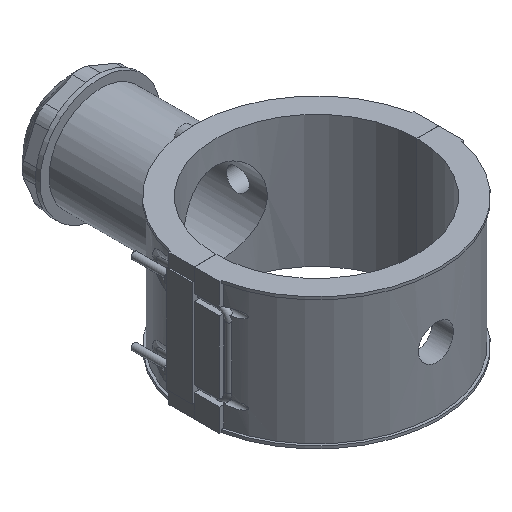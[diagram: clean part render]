
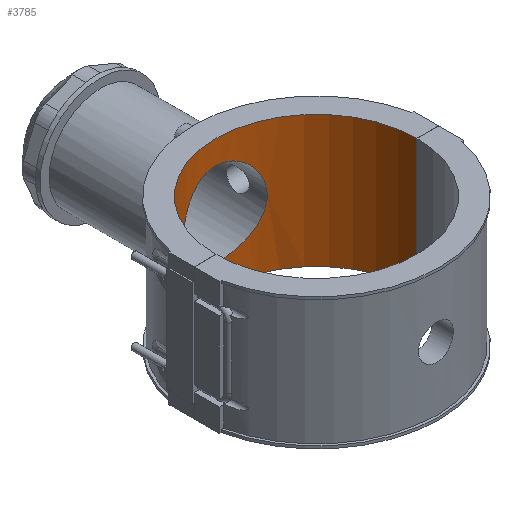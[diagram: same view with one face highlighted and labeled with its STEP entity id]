
A CAD part, isometric view. The second image highlights one B-rep face of the part: STEP entity #3785.
In plain terms, the highlighted cylindrical face has radius 90 mm (diameter 180 mm), a partial arc.
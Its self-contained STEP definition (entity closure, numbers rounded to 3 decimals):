
#283=LINE('',#7626,#592);
#346=LINE('',#8068,#655);
#592=VECTOR('',#4850,118.);
#655=VECTOR('',#5065,118.);
#909=CIRCLE('',#4111,90.);
#910=CIRCLE('',#4113,90.);
#949=FACE_BOUND('',#1405,.T.);
#1157=FACE_OUTER_BOUND('',#1404,.T.);
#1404=EDGE_LOOP('',(#3513,#3514,#3515,#3516));
#1405=EDGE_LOOP('',(#3517));
#1407=B_SPLINE_CURVE_WITH_KNOTS('',3,(#5084,#5085,#5086,#5087,#5088,#5089,
#5090,#5091,#5092,#5093,#5094,#5095,#5096,#5097,#5098,#5099,#5100,#5101,
#5102,#5103,#5104,#5105,#5106,#5107,#5108,#5109,#5110,#5111,#5112,#5113,
#5114,#5115,#5116,#5117,#5118,#5119,#5120,#5121,#5122,#5123,#5124,#5125,
#5126,#5127,#5128,#5129,#5130,#5131,#5132,#5133,#5134,#5135,#5136,#5137,
#5138,#5139,#5140,#5141,#5142,#5143,#5144,#5145,#5146,#5147,#5148,#5149),
 .UNSPECIFIED.,.T.,.F.,(4,2,2,2,2,2,2,2,2,2,2,2,2,2,2,2,2,2,2,2,2,2,2,2,
2,2,2,2,2,2,2,2,4),(0.,0.722,1.444,2.167,
2.889,3.61,4.332,5.053,5.774,
6.496,7.217,7.938,8.66,9.382,
10.104,10.826,11.548,12.271,12.993,
13.715,14.437,15.159,15.88,16.601,
17.323,18.044,18.765,19.487,20.208,
20.93,21.652,22.375,23.097),
 .UNSPECIFIED.);
#1516=VERTEX_POINT('',#5083);
#1815=VERTEX_POINT('',#7623);
#1816=VERTEX_POINT('',#7625);
#1874=VERTEX_POINT('',#8065);
#1875=VERTEX_POINT('',#8067);
#1877=EDGE_CURVE('',#1516,#1516,#1407,.T.);
#2312=EDGE_CURVE('',#1816,#1815,#283,.T.);
#2414=EDGE_CURVE('',#1875,#1874,#346,.T.);
#2417=EDGE_CURVE('',#1816,#1874,#909,.T.);
#2418=EDGE_CURVE('',#1875,#1815,#910,.T.);
#3513=ORIENTED_EDGE('',*,*,#2414,.T.);
#3514=ORIENTED_EDGE('',*,*,#2417,.F.);
#3515=ORIENTED_EDGE('',*,*,#2312,.T.);
#3516=ORIENTED_EDGE('',*,*,#2418,.F.);
#3517=ORIENTED_EDGE('',*,*,#1877,.T.);
#3577=CYLINDRICAL_SURFACE('',#4114,90.);
#3785=ADVANCED_FACE('',(#1157,#949),#3577,.F.);
#4111=AXIS2_PLACEMENT_3D('',#8073,#5070,#5071);
#4113=AXIS2_PLACEMENT_3D('',#8075,#5074,#5075);
#4114=AXIS2_PLACEMENT_3D('',#8077,#5077,#5078);
#4850=DIRECTION('',(0.,0.,-1.));
#5065=DIRECTION('',(0.,0.,1.));
#5070=DIRECTION('center_axis',(0.,0.,-1.));
#5071=DIRECTION('ref_axis',(-1.,0.,0.));
#5074=DIRECTION('center_axis',(0.,0.,1.));
#5075=DIRECTION('ref_axis',(-1.,0.,0.));
#5077=DIRECTION('center_axis',(0.,0.,1.));
#5078=DIRECTION('ref_axis',(-1.,0.,0.));
#5083=CARTESIAN_POINT('',(-37.8,81.677,0.));
#5084=CARTESIAN_POINT('Ctrl Pts',(-37.8,81.677,0.));
#5085=CARTESIAN_POINT('Ctrl Pts',(-37.8,81.677,2.407));
#5086=CARTESIAN_POINT('Ctrl Pts',(-37.566,81.787,4.886));
#5087=CARTESIAN_POINT('Ctrl Pts',(-36.595,82.226,9.795));
#5088=CARTESIAN_POINT('Ctrl Pts',(-35.857,82.555,12.225));
#5089=CARTESIAN_POINT('Ctrl Pts',(-33.92,83.37,16.871));
#5090=CARTESIAN_POINT('Ctrl Pts',(-32.719,83.855,19.09));
#5091=CARTESIAN_POINT('Ctrl Pts',(-29.955,84.882,23.188));
#5092=CARTESIAN_POINT('Ctrl Pts',(-28.391,85.422,25.066));
#5093=CARTESIAN_POINT('Ctrl Pts',(-25.068,86.456,28.389));
#5094=CARTESIAN_POINT('Ctrl Pts',(-23.191,86.986,29.952));
#5095=CARTESIAN_POINT('Ctrl Pts',(-19.093,87.977,32.717));
#5096=CARTESIAN_POINT('Ctrl Pts',(-16.872,88.436,33.919));
#5097=CARTESIAN_POINT('Ctrl Pts',(-12.223,89.197,35.858));
#5098=CARTESIAN_POINT('Ctrl Pts',(-9.791,89.5,36.596));
#5099=CARTESIAN_POINT('Ctrl Pts',(-4.882,89.901,37.567));
#5100=CARTESIAN_POINT('Ctrl Pts',(-2.404,90.,37.8));
#5101=CARTESIAN_POINT('Ctrl Pts',(2.404,90.,37.8));
#5102=CARTESIAN_POINT('Ctrl Pts',(4.882,89.901,37.567));
#5103=CARTESIAN_POINT('Ctrl Pts',(9.791,89.5,36.596));
#5104=CARTESIAN_POINT('Ctrl Pts',(12.223,89.197,35.858));
#5105=CARTESIAN_POINT('Ctrl Pts',(16.872,88.436,33.919));
#5106=CARTESIAN_POINT('Ctrl Pts',(19.093,87.977,32.717));
#5107=CARTESIAN_POINT('Ctrl Pts',(23.191,86.986,29.952));
#5108=CARTESIAN_POINT('Ctrl Pts',(25.068,86.456,28.389));
#5109=CARTESIAN_POINT('Ctrl Pts',(28.391,85.422,25.066));
#5110=CARTESIAN_POINT('Ctrl Pts',(29.955,84.882,23.188));
#5111=CARTESIAN_POINT('Ctrl Pts',(32.719,83.855,19.09));
#5112=CARTESIAN_POINT('Ctrl Pts',(33.92,83.37,16.871));
#5113=CARTESIAN_POINT('Ctrl Pts',(35.857,82.555,12.225));
#5114=CARTESIAN_POINT('Ctrl Pts',(36.595,82.226,9.795));
#5115=CARTESIAN_POINT('Ctrl Pts',(37.566,81.787,4.886));
#5116=CARTESIAN_POINT('Ctrl Pts',(37.8,81.677,2.407));
#5117=CARTESIAN_POINT('Ctrl Pts',(37.8,81.677,-2.407));
#5118=CARTESIAN_POINT('Ctrl Pts',(37.566,81.787,-4.886));
#5119=CARTESIAN_POINT('Ctrl Pts',(36.595,82.226,-9.795));
#5120=CARTESIAN_POINT('Ctrl Pts',(35.857,82.555,-12.225));
#5121=CARTESIAN_POINT('Ctrl Pts',(33.92,83.37,-16.871));
#5122=CARTESIAN_POINT('Ctrl Pts',(32.719,83.855,-19.09));
#5123=CARTESIAN_POINT('Ctrl Pts',(29.955,84.882,-23.188));
#5124=CARTESIAN_POINT('Ctrl Pts',(28.391,85.422,-25.066));
#5125=CARTESIAN_POINT('Ctrl Pts',(25.068,86.456,-28.389));
#5126=CARTESIAN_POINT('Ctrl Pts',(23.191,86.986,-29.952));
#5127=CARTESIAN_POINT('Ctrl Pts',(19.093,87.977,-32.717));
#5128=CARTESIAN_POINT('Ctrl Pts',(16.872,88.436,-33.919));
#5129=CARTESIAN_POINT('Ctrl Pts',(12.223,89.197,-35.858));
#5130=CARTESIAN_POINT('Ctrl Pts',(9.791,89.5,-36.596));
#5131=CARTESIAN_POINT('Ctrl Pts',(4.882,89.901,-37.567));
#5132=CARTESIAN_POINT('Ctrl Pts',(2.404,90.,-37.8));
#5133=CARTESIAN_POINT('Ctrl Pts',(-2.404,90.,-37.8));
#5134=CARTESIAN_POINT('Ctrl Pts',(-4.882,89.901,-37.567));
#5135=CARTESIAN_POINT('Ctrl Pts',(-9.791,89.5,-36.596));
#5136=CARTESIAN_POINT('Ctrl Pts',(-12.223,89.197,-35.858));
#5137=CARTESIAN_POINT('Ctrl Pts',(-16.872,88.436,-33.919));
#5138=CARTESIAN_POINT('Ctrl Pts',(-19.093,87.977,-32.717));
#5139=CARTESIAN_POINT('Ctrl Pts',(-23.191,86.986,-29.952));
#5140=CARTESIAN_POINT('Ctrl Pts',(-25.068,86.456,-28.389));
#5141=CARTESIAN_POINT('Ctrl Pts',(-28.391,85.422,-25.066));
#5142=CARTESIAN_POINT('Ctrl Pts',(-29.955,84.882,-23.188));
#5143=CARTESIAN_POINT('Ctrl Pts',(-32.719,83.855,-19.09));
#5144=CARTESIAN_POINT('Ctrl Pts',(-33.92,83.37,-16.871));
#5145=CARTESIAN_POINT('Ctrl Pts',(-35.857,82.555,-12.225));
#5146=CARTESIAN_POINT('Ctrl Pts',(-36.595,82.226,-9.795));
#5147=CARTESIAN_POINT('Ctrl Pts',(-37.566,81.787,-4.886));
#5148=CARTESIAN_POINT('Ctrl Pts',(-37.8,81.677,-2.407));
#5149=CARTESIAN_POINT('Ctrl Pts',(-37.8,81.677,0.));
#7623=CARTESIAN_POINT('',(-90.,0.05,-59.));
#7625=CARTESIAN_POINT('',(-90.,0.05,59.));
#7626=CARTESIAN_POINT('',(-90.,0.05,0.));
#8065=CARTESIAN_POINT('',(90.,0.05,59.));
#8067=CARTESIAN_POINT('',(90.,0.05,-59.));
#8068=CARTESIAN_POINT('',(90.,0.05,0.));
#8073=CARTESIAN_POINT('Origin',(0.,0.,59.));
#8075=CARTESIAN_POINT('Origin',(0.,0.,-59.));
#8077=CARTESIAN_POINT('Origin',(0.,0.,0.));
